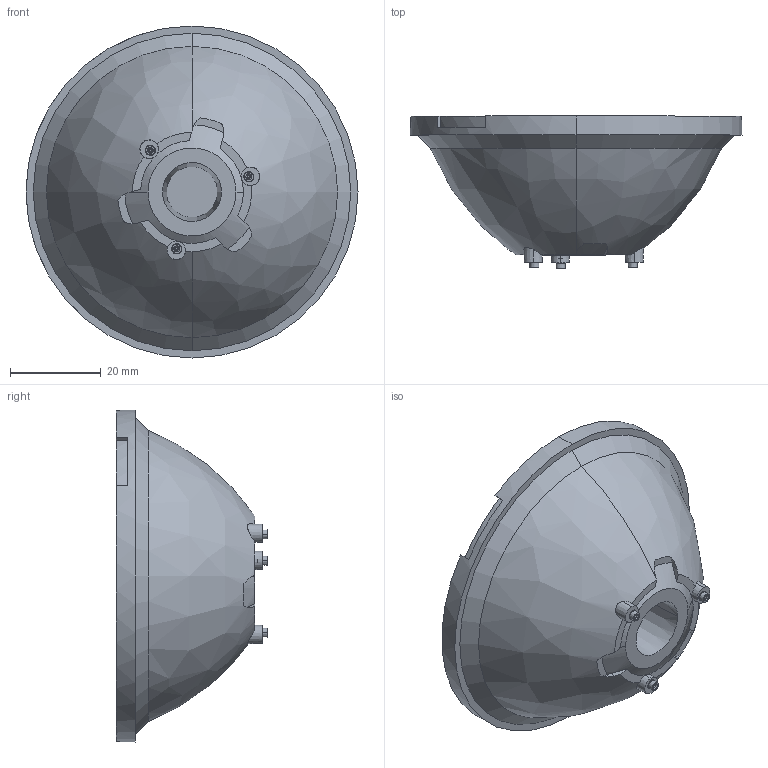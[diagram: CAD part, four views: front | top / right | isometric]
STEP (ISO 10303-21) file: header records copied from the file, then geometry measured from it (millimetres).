
FILE_DESCRIPTION (( 'STEP AP214' ), '1' );
FILE_NAME ('LZP-35deg-Lens-LensH-Apps_RevA1.STEP', '2011-08-30T17:37:50', ( '' ), ( '' ), 'SwSTEP 2.0', 'SolidWorks 2011', '' );
FILE_SCHEMA (( 'AUTOMOTIVE_DESIGN' ));
Length unit declared in the file: millimetre
Products named in the file (3): 2300-0037_Lens_Holder_80W-Emitter_RevB_cpy; 2400-0078-P3_Lens-35deg_80W_RevB_PART; LZP-35deg-Lens-LensH-Apps_RevA1
Assembly tree (2 placements, depth 2):
  LZP-35deg-Lens-LensH-Apps_RevA1
    2300-0037_Lens_Holder_80W-Emitter_RevB_cpy
    2400-0078-P3_Lens-35deg_80W_RevB_PART
Bounding box: 73 x 33.36 x 73 mm (x, y, z)
Volume: 69273.9 mm3; surface area: 24673.1 mm2
Topology: 2 solids, 2 shells, 199 faces, 535 edges, 352 vertices
Faces by surface type: cone 98, plane 67, bspline 18, cylinder 16
Entity records: 8010 total; most frequent: CARTESIAN_POINT 2830, ORIENTED_EDGE 1070, DIRECTION 1051, EDGE_CURVE 535, AXIS2_PLACEMENT_3D 435, VERTEX_POINT 352, CIRCLE 249, EDGE_LOOP 213
